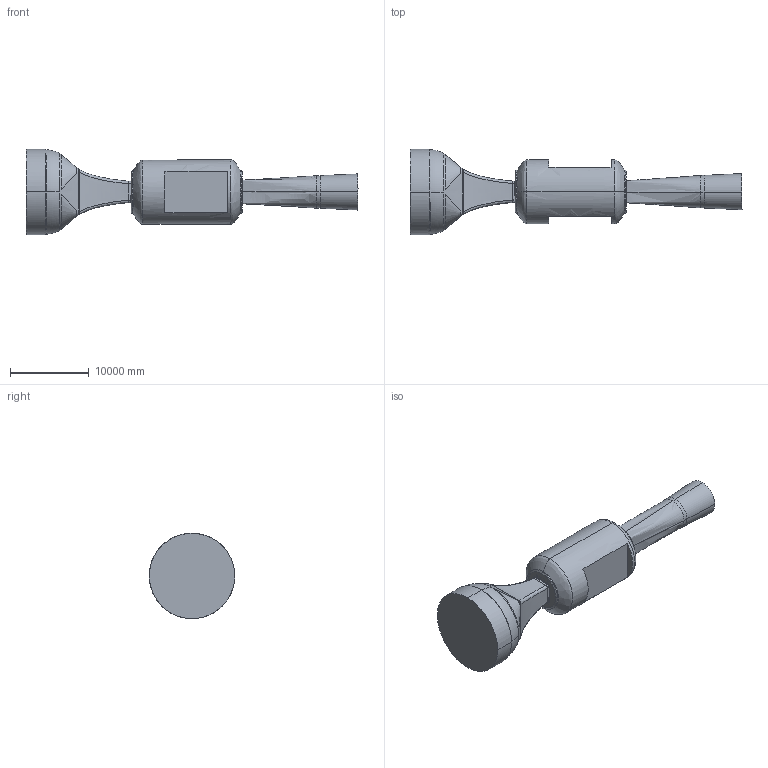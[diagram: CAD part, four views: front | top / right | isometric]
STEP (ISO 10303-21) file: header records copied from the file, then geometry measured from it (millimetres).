
FILE_DESCRIPTION(/* description */ (''),/* implementation_level */ '2;1');
FILE_NAME(/* name */ 'NTF_Contraction_TestSection_Diffusor_2023_10_02.stp',/* time_stamp */ '2023-10-03T10:36:55-04:00',/* author */ (''),/* organization */ (''),/* preprocessor_version */ 'ST-DEVELOPER v16.7',/* originating_system */ 'SIEMENS PLM Software NX 12.0',/* authorisation */ '');
FILE_SCHEMA (('AUTOMOTIVE_DESIGN { 1 0 10303 214 3 1 1 1 }'));
Products named in the file (1): sbry4BE4EA14yhvn
Bounding box: 42269.44 x 10879.79 x 10860.75 mm (x, y, z)
Volume: 1410773680297.9 mm3; surface area: 1443934817 mm2
Topology: 1 solids, 1 shells, 917 faces, 2684 edges, 1723 vertices
Faces by surface type: plane 515, bspline 330, cylinder 66, cone 4, torus 2
Entity records: 207740 total; most frequent: CARTESIAN_POINT 186493, ORIENTED_EDGE 5378, DIRECTION 2977, EDGE_CURVE 2689, VERTEX_POINT 1728, LINE 1427, VECTOR 1427, B_SPLINE_CURVE_WITH_KNOTS 1009
